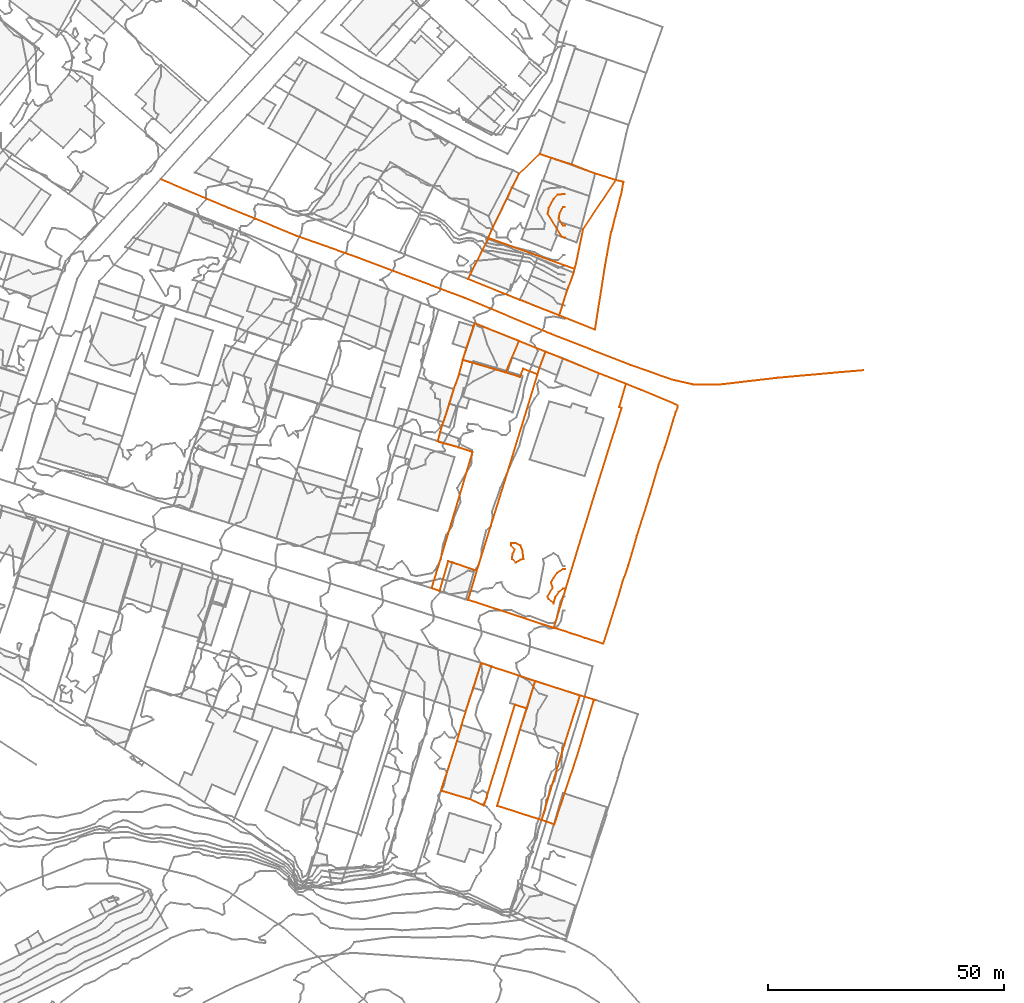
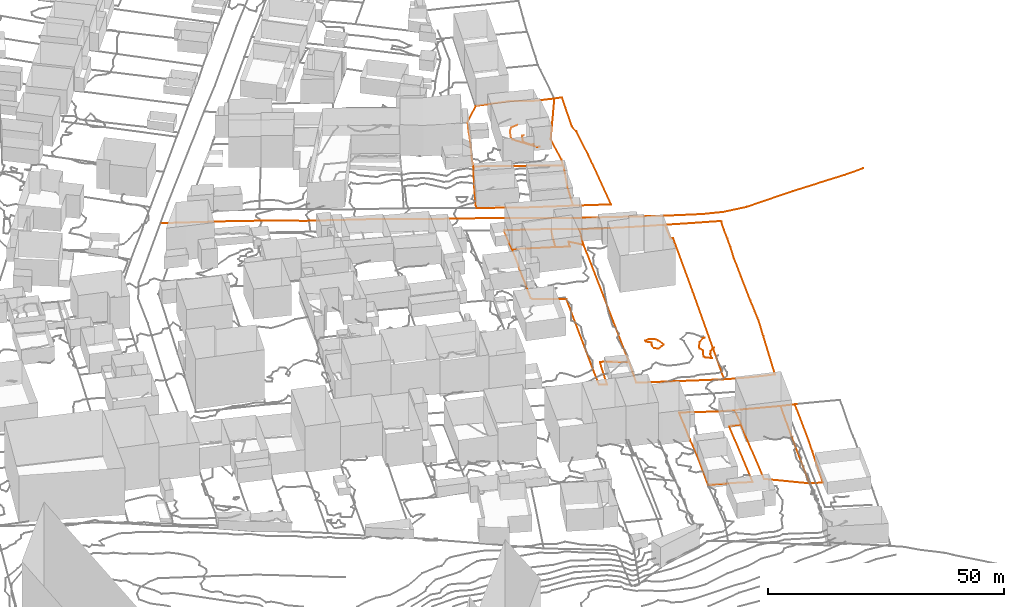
# Not in any storey, part 199 of 419: 16 proxies.
"""IFC2X3 model written with IfcOpenShell, lengths in metres."""

from ifc_helpers import new_model, entity, si_unit, frame, origin_with_axes, place, context, subcontext, project, element, save


model = new_model("IFC2X3")

# Units and contexts
model_context = context("Model", 3, precision=1e-05, world=origin_with_axes())
body_context = subcontext(model_context, "Body", "Model", "MODEL_VIEW")
ifc_project = project(units=[si_unit("AREAUNIT", "SQUARE_METRE"), si_unit("LENGTHUNIT", "METRE")], contexts=[model_context])

# Proxies
proxy_1_placement = place(None, frame((890.9920204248, 221.1976909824, 79.6), z_axis=(0.0, 0.0, 1.0), x_axis=(1.0, 0.0, 0.0)))
element("IfcBuildingElementProxy", 1, at=proxy_1_placement, Name="Route 121", ObjectType="NOTDEFINED", context=body_context, shape_type="GeometricCurveSet", body=[
    entity("IfcGeometricCurveSet", [entity("IfcPolyline", [entity("IfcCartesianPoint", [0.0, 0.0, 0.0]), entity("IfcCartesianPoint", [14.4, -6.0999999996, -0.8]), entity("IfcCartesianPoint", [20.1, -8.3999999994, -1.3]), entity("IfcCartesianPoint", [28.7999999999, -12.0, -2.2]), entity("IfcCartesianPoint", [41.5, -16.5, -3.5]), entity("IfcCartesianPoint", [53.4, -21.0, -4.9]), entity("IfcCartesianPoint", [64.2999999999, -25.0999999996, -6.0]), entity("IfcCartesianPoint", [82.5, -32.7000000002, -7.7]), entity("IfcCartesianPoint", [99.4, -39.2999999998, -9.1]), entity("IfcCartesianPoint", [108.2, -42.3999999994, -9.8]), entity("IfcCartesianPoint", [112.6, -43.3999999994, -10.2]), entity("IfcCartesianPoint", [118.4, -43.3999999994, -10.9]), entity("IfcCartesianPoint", [130.5, -42.0, -11.9]), entity("IfcCartesianPoint", [143.7999999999, -40.7999999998, -13.1]), entity("IfcCartesianPoint", [148.6, -40.3999999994, -13.3])])]),
])
proxy_2_placement = place(None, frame((954.9220204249, 182.9676909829, 73.6734759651), z_axis=(0.0, 0.0, 1.0), x_axis=(1.0, 0.0, 0.0)))
element("IfcBuildingElementProxy", 2, at=proxy_2_placement, Name="Cadastre 171", ObjectType="NOTDEFINED", context=body_context, shape_type="GeometricCurveSet", body=[
    entity("IfcGeometricCurveSet", [entity("IfcPolyline", [entity("IfcCartesianPoint", [11.85, 4.0099999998, -1.3716521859]), entity("IfcCartesianPoint", [10.0599999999, -0.2700000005, -1.0871059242]), entity("IfcCartesianPoint", [9.0599999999, -2.6500000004, -1.0155648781]), entity("IfcCartesianPoint", [0.0, 0.0, 0.0]), entity("IfcCartesianPoint", [0.74, 2.4699999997, -0.1234781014]), entity("IfcCartesianPoint", [2.23, 7.0999999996, -0.5797881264]), entity("IfcCartesianPoint", [2.5299999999, 7.7299999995, -0.6620951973]), entity("IfcCartesianPoint", [11.85, 4.0099999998, -1.3716521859])])]),
])
proxy_3_placement = place(None, frame((948.3420204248, 134.6976909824, 70.182251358), z_axis=(0.0, 0.0, 1.0), x_axis=(1.0, 0.0, 0.0)))
element("IfcBuildingElementProxy", 3, at=proxy_3_placement, Name="Cadastre 172", ObjectType="NOTDEFINED", context=body_context, shape_type="GeometricCurveSet", body=[
    entity("IfcGeometricCurveSet", [entity("IfcPolyline", [entity("IfcCartesianPoint", [22.36, 45.21, 0.9437617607]), entity("IfcCartesianPoint", [16.37, 25.5899999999, 0.4045876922]), entity("IfcCartesianPoint", [9.55, 3.7600000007, 0.1944496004]), entity("IfcCartesianPoint", [9.0700000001, 3.8399999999, 0.391870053]), entity("IfcCartesianPoint", [4.3100000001, 5.4500000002, 1.198497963]), entity("IfcCartesianPoint", [3.51, 5.71, 1.1680731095]), entity("IfcCartesianPoint", [1.67, -0.5699999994, -0.2140882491]), entity("IfcCartesianPoint", [0.0, 0.0, 0.0]), entity("IfcCartesianPoint", [8.65, 28.79, 1.6959260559]), entity("IfcCartesianPoint", [5.64, 29.8000000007, 2.0864874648]), entity("IfcCartesianPoint", [1.6, 30.9100000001, 2.9301432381]), entity("IfcCartesianPoint", [1.27, 31.1100000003, 3.0962023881]), entity("IfcCartesianPoint", [1.5800000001, 32.1299999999, 3.1774495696]), entity("IfcCartesianPoint", [1.8, 32.9800000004, 3.2614468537]), entity("IfcCartesianPoint", [2.21, 34.4900000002, 3.4871472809]), entity("IfcCartesianPoint", [2.46, 35.0800000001, 3.4169209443]), entity("IfcCartesianPoint", [3.73, 38.9700000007, 3.1985443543]), entity("IfcCartesianPoint", [4.6800000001, 42.0700000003, 3.293389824]), entity("IfcCartesianPoint", [5.8100000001, 45.3200000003, 3.247861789]), entity("IfcCartesianPoint", [6.5800000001, 48.2700000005, 3.4912246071]), entity("IfcCartesianPoint", [15.64, 45.6200000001, 2.475659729]), entity("IfcCartesianPoint", [18.66, 44.6800000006, 2.11110365]), entity("IfcCartesianPoint", [19.3300000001, 46.4000000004, 2.0978298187]), entity("IfcCartesianPoint", [22.36, 45.21, 0.9437617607])])]),
])
proxy_4_placement = place(None, frame((956.0420204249, 132.2476909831, 69.4983255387), z_axis=(0.0, 0.0, 1.0), x_axis=(1.0, 0.0, 0.0)))
element("IfcBuildingElementProxy", 4, at=proxy_4_placement, Name="Cadastre 174", ObjectType="NOTDEFINED", context=body_context, shape_type="GeometricCurveSet", body=[
    entity("IfcGeometricCurveSet", [entity("IfcPolyline", [entity("IfcCartesianPoint", [16.37, 52.4499999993, 2.2203743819]), entity("IfcCartesianPoint", [20.0199999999, 51.0199999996, 1.9173746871]), entity("IfcCartesianPoint", [27.6699999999, 47.8799999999, 1.6327760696]), entity("IfcCartesianPoint", [33.37, 45.6699999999, 1.4880712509]), entity("IfcCartesianPoint", [31.96, 40.7799999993, 1.4171756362]), entity("IfcCartesianPoint", [32.4399999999, 40.5699999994, 1.4486759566]), entity("IfcCartesianPoint", [26.75, 22.3899999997, 0.6492754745]), entity("IfcCartesianPoint", [18.1, -5.9300000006, -1.8483448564]), entity("IfcCartesianPoint", [0.0, 0.0, 0.0]), entity("IfcCartesianPoint", [1.85, 6.21, 0.8783754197]), entity("IfcCartesianPoint", [8.6699999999, 28.0399999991, 1.0885135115]), entity("IfcCartesianPoint", [14.6599999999, 47.6599999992, 1.62768758]), entity("IfcCartesianPoint", [15.08, 49.0499999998, 1.8042843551]), entity("IfcCartesianPoint", [16.37, 52.4499999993, 2.2203743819])])]),
])
proxy_5_placement = place(None, frame((956.0520204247, 200.0676909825, 73.5460809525), z_axis=(0.0, 0.0, 1.0), x_axis=(1.0, 0.0, 0.0)))
element("IfcBuildingElementProxy", 5, at=proxy_5_placement, Name="Cadastre 175", ObjectType="NOTDEFINED", context=body_context, shape_type="GeometricCurveSet", body=[
    entity("IfcGeometricCurveSet", [entity("IfcPolyline", [entity("IfcCartesianPoint", [19.26, -7.6699999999, -1.4740820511]), entity("IfcCartesianPoint", [10.9400000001, -4.4199999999, -0.9440820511]), entity("IfcCartesianPoint", [8.4400000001, -3.4299999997, -0.7292825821]), entity("IfcCartesianPoint", [0.0, 0.0, 0.0]), entity("IfcCartesianPoint", [0.42, 0.9199999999, 0.0819259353]), entity("IfcCartesianPoint", [2.9600000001, 6.0600000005, 1.1970188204]), entity("IfcCartesianPoint", [4.1900000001, 8.4199999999, 3.9926731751]), entity("IfcCartesianPoint", [4.2400000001, 8.6900000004, 4.0210779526]), entity("IfcCartesianPoint", [22.5, 2.1299999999, 1.8639211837]), entity("IfcCartesianPoint", [22.3, 1.3200000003, 1.4577211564]), entity("IfcCartesianPoint", [21.9600000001, 0.3500000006, 0.8563184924]), entity("IfcCartesianPoint", [20.92, -2.3599999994, -0.2312794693]), entity("IfcCartesianPoint", [19.26, -7.6699999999, -1.4740820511])])]),
])
proxy_6_placement = place(None, frame((963.9820204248, 180.3176909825, 72.657911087), z_axis=(0.0, 0.0, 1.0), x_axis=(1.0, 0.0, 0.0)))
element("IfcBuildingElementProxy", 6, at=proxy_6_placement, Name="Cadastre 176", ObjectType="NOTDEFINED", context=body_context, shape_type="GeometricCurveSet", body=[
    entity("IfcGeometricCurveSet", [entity("IfcPolyline", [entity("IfcCartesianPoint", [8.4300000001, 4.3799999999, -0.9392111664]), entity("IfcCartesianPoint", [7.14, 0.9800000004, -1.3553011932]), entity("IfcCartesianPoint", [6.72, -0.4100000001, -1.5318979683]), entity("IfcCartesianPoint", [3.6900000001, 0.7800000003, -0.3778299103]), entity("IfcCartesianPoint", [3.02, -0.9399999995, -0.3645560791]), entity("IfcCartesianPoint", [0.0, 0.0, 0.0]), entity("IfcCartesianPoint", [1.0, 2.3799999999, -0.0715410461]), entity("IfcCartesianPoint", [2.79, 6.6600000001, -0.3560873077]), entity("IfcCartesianPoint", [8.4300000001, 4.3799999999, -0.9392111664])])]),
])
proxy_7_placement = place(None, frame((960.2920204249, 208.7576909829, 77.5671589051), z_axis=(0.0, 0.0, 1.0), x_axis=(1.0, 0.0, 0.0)))
element("IfcBuildingElementProxy", 7, at=proxy_7_placement, Name="Cadastre 181", ObjectType="NOTDEFINED", context=body_context, shape_type="GeometricCurveSet", body=[
    entity("IfcGeometricCurveSet", [entity("IfcPolyline", [entity("IfcCartesianPoint", [26.96, 12.2599999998, 0.690040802]), entity("IfcCartesianPoint", [20.0699999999, 1.8799999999, -1.1111576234]), entity("IfcCartesianPoint", [18.59, -5.29, -1.5626556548]), entity("IfcCartesianPoint", [18.2599999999, -6.5600000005, -2.1571567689]), entity("IfcCartesianPoint", [0.0, 0.0, 0.0]), entity("IfcCartesianPoint", [1.0199999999, 2.3399999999, 0.479599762]), entity("IfcCartesianPoint", [3.98, 8.2799999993, 0.9700578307]), entity("IfcCartesianPoint", [5.0099999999, 10.6499999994, 1.0443129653]), entity("IfcCartesianPoint", [6.5299999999, 13.6099999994, 1.0226627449]), entity("IfcCartesianPoint", [10.88, 17.7699999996, 1.0646869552]), entity("IfcCartesianPoint", [13.2599999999, 16.9100000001, 1.1456235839]), entity("IfcCartesianPoint", [17.63, 15.5599999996, 1.223243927]), entity("IfcCartesianPoint", [20.5599999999, 14.3899999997, 1.0203407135]), entity("IfcCartesianPoint", [22.59, 13.6299999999, 0.7425386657]), entity("IfcCartesianPoint", [26.96, 12.2599999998, 0.690040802])])]),
])
proxy_8_placement = place(None, frame((975.3120204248, 192.3976909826, 72.0719989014), z_axis=(0.0, 0.0, 1.0), x_axis=(1.0, 0.0, 0.0)))
element("IfcBuildingElementProxy", 8, at=proxy_8_placement, Name="Cadastre 183", ObjectType="NOTDEFINED", context=body_context, shape_type="GeometricCurveSet", body=[
    entity("IfcGeometricCurveSet", [entity("IfcPolyline", [entity("IfcCartesianPoint", [11.9400000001, 28.6200000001, 6.1852008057]), entity("IfcCartesianPoint", [13.5600000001, 28.2199999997, 6.1612017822]), entity("IfcCartesianPoint", [13.1900000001, 26.0600000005, 4.8582003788]), entity("IfcCartesianPoint", [11.88, 21.04, 3.5432015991]), entity("IfcCartesianPoint", [11.1800000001, 18.1699999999, 4.4085022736]), entity("IfcCartesianPoint", [10.9600000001, 17.5600000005, 4.6440026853]), entity("IfcCartesianPoint", [9.65, 10.3500000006, 3.6025036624]), entity("IfcCartesianPoint", [7.5600000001, -3.04, -0.4712002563]), entity("IfcCartesianPoint", [0.0, 0.0, 0.0]), entity("IfcCartesianPoint", [1.66, 5.3100000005, 1.2428025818]), entity("IfcCartesianPoint", [2.7000000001, 8.0200000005, 2.3304005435]), entity("IfcCartesianPoint", [3.04, 8.9900000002, 2.9318032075]), entity("IfcCartesianPoint", [3.24, 9.7999999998, 3.3380032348]), entity("IfcCartesianPoint", [3.5700000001, 11.0700000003, 3.9325043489]), entity("IfcCartesianPoint", [5.05, 18.2400000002, 4.3840023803]), entity("IfcCartesianPoint", [11.9400000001, 28.6200000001, 6.1852008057])])]),
])
proxy_9_placement = place(None, frame((974.1420204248, 126.3176909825, 67.6499806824), z_axis=(0.0, 0.0, 1.0), x_axis=(1.0, 0.0, 0.0)))
element("IfcBuildingElementProxy", 9, at=proxy_9_placement, Name="Cadastre 188", ObjectType="NOTDEFINED", context=body_context, shape_type="GeometricCurveSet", body=[
    entity("IfcGeometricCurveSet", [entity("IfcPolyline", [entity("IfcCartesianPoint", [0.0, 0.0, 0.0]), entity("IfcCartesianPoint", [8.65, 28.3200000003, 2.4976203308]), entity("IfcCartesianPoint", [14.34, 46.5, 3.297020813]), entity("IfcCartesianPoint", [13.86, 46.71, 3.2655204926]), entity("IfcCartesianPoint", [15.27, 51.6000000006, 3.3364161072]), entity("IfcCartesianPoint", [18.5699999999, 50.2800000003, 3.24401651]), entity("IfcCartesianPoint", [26.24, 47.0600000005, 3.2130199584]), entity("IfcCartesianPoint", [26.23, 46.6600000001, 3.2730205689]), entity("IfcCartesianPoint", [25.8099999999, 45.6400000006, 3.3380201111]), entity("IfcCartesianPoint", [25.1899999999, 43.7300000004, 3.2785196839]), entity("IfcCartesianPoint", [24.39, 40.9500000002, 3.0309217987]), entity("IfcCartesianPoint", [23.47, 38.0099999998, 2.9500177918]), entity("IfcCartesianPoint", [22.1799999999, 34.4100000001, 2.9032205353]), entity("IfcCartesianPoint", [20.37, 28.3200000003, 2.4976203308]), entity("IfcCartesianPoint", [17.5699999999, 19.3900000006, 2.4824223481]), entity("IfcCartesianPoint", [16.48, 15.6200000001, 2.4054194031]), entity("IfcCartesianPoint", [15.76, 13.2000000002, 2.3424176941]), entity("IfcCartesianPoint", [15.4199999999, 12.1299999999, 2.4445177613]), entity("IfcCartesianPoint", [14.5499999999, 9.7800000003, 2.4730204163]), entity("IfcCartesianPoint", [13.9399999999, 7.5899999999, 1.6413191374]), entity("IfcCartesianPoint", [10.48, -3.3599999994, -0.3611800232]), entity("IfcCartesianPoint", [6.6699999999, -2.1299999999, -0.3462828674]), entity("IfcCartesianPoint", [3.8099999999, -1.1899999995, -0.2596826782]), entity("IfcCartesianPoint", [0.72, -0.1699999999, -0.0911061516]), entity("IfcCartesianPoint", [0.0, 0.0, 0.0])])]),
])
proxy_10_placement = place(None, frame((950.3220204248, 91.8876909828, 69.5774701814), z_axis=(0.0, 0.0, 1.0), x_axis=(1.0, 0.0, 0.0)))
element("IfcBuildingElementProxy", 10, at=proxy_10_placement, Name="Cadastre 212", ObjectType="NOTDEFINED", context=body_context, shape_type="GeometricCurveSet", body=[
    entity("IfcGeometricCurveSet", [entity("IfcPolyline", [entity("IfcCartesianPoint", [0.0, 0.0, 0.0]), entity("IfcCartesianPoint", [3.37, 10.5199999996, 0.1297410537]), entity("IfcCartesianPoint", [4.3200000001, 13.8899999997, 0.046028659]), entity("IfcCartesianPoint", [5.2100000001, 16.75, -0.2243259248]), entity("IfcCartesianPoint", [6.8300000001, 21.75, -0.3574703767]), entity("IfcCartesianPoint", [8.4500000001, 27.0, -0.637062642]), entity("IfcCartesianPoint", [10.62, 26.2599999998, -0.8613466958]), entity("IfcCartesianPoint", [16.4700000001, 24.3300000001, -1.5596324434]), entity("IfcCartesianPoint", [19.91, 23.1699999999, -1.678270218]), entity("IfcCartesianPoint", [18.12, 17.3700000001, -1.313891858]), entity("IfcCartesianPoint", [15.61, 18.2000000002, -1.2643227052]), entity("IfcCartesianPoint", [9.0900000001, -3.1500000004, -0.5428013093]), entity("IfcCartesianPoint", [6.15, -1.7999999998, -0.5198270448]), entity("IfcCartesianPoint", [0.0, 0.0, 0.0])])]),
])
proxy_11_placement = place(None, frame((962.1720204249, 88.6876909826, 68.8848294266), z_axis=(0.0, 0.0, 1.0), x_axis=(1.0, 0.0, 0.0)))
element("IfcBuildingElementProxy", 11, at=proxy_11_placement, Name="Cadastre 213", ObjectType="NOTDEFINED", context=body_context, shape_type="GeometricCurveSet", body=[
    entity("IfcGeometricCurveSet", [entity("IfcPolyline", [entity("IfcCartesianPoint", [9.3999999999, -2.9799999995, -2.6212571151]), entity("IfcCartesianPoint", [0.0, 0.0, 0.0]), entity("IfcCartesianPoint", [4.83, 16.1200000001, -0.4749168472]), entity("IfcCartesianPoint", [6.2699999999, 20.5700000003, -0.6212511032]), entity("IfcCartesianPoint", [8.0599999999, 26.3700000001, -0.9856294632]), entity("IfcCartesianPoint", [17.5099999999, 23.3499999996, -1.4156283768]), entity("IfcCartesianPoint", [14.23, 12.9900000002, -1.9168274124]), entity("IfcCartesianPoint", [9.3999999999, -2.9799999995, -2.6212571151])])]),
])
proxy_12_placement = place(None, frame((971.5720204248, 85.7076909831, 66.2635723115), z_axis=(0.0, 0.0, 1.0), x_axis=(1.0, 0.0, 0.0)))
element("IfcBuildingElementProxy", 12, at=proxy_12_placement, Name="Cadastre 214", ObjectType="NOTDEFINED", context=body_context, shape_type="GeometricCurveSet", body=[
    entity("IfcGeometricCurveSet", [entity("IfcPolyline", [entity("IfcCartesianPoint", [11.41, 25.3599999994, 1.1633247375]), entity("IfcCartesianPoint", [11.01, 25.2199999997, 1.1535247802]), entity("IfcCartesianPoint", [7.38, 13.1499999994, 0.5332271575]), entity("IfcCartesianPoint", [6.14, 9.4499999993, 0.3044287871]), entity("IfcCartesianPoint", [4.87, 5.6799999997, 0.2069288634]), entity("IfcCartesianPoint", [4.54, 4.6599999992, 0.2540245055]), entity("IfcCartesianPoint", [2.6900000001, -0.9500000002, -0.1279514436]), entity("IfcCartesianPoint", [0.0, 0.0, 0.0]), entity("IfcCartesianPoint", [4.8300000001, 15.9699999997, 0.7044297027]), entity("IfcCartesianPoint", [8.11, 26.3299999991, 1.2056287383]), entity("IfcCartesianPoint", [11.41, 25.3599999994, 1.1633247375])])]),
])
proxy_13_placement = place(None, frame((975.225349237, 212.8976909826, 76.0), z_axis=(0.0, 0.0, 1.0), x_axis=(1.0, 0.0, 0.0)))
element("IfcBuildingElementProxy", 13, at=proxy_13_placement, Name="Contour 76.0 m", ObjectType="NOTDEFINED", context=body_context, shape_type="GeometricCurveSet", body=[
    entity("IfcGeometricCurveSet", [entity("IfcPolyline", [entity("IfcCartesianPoint", [1.3666711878, 2.4444538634, 0.0]), entity("IfcCartesianPoint", [0.8666711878, 2.4444538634, 0.0]), entity("IfcCartesianPoint", [0.1444442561, 1.0, 0.0]), entity("IfcCartesianPoint", [0.0, 0.0, 0.0]), entity("IfcCartesianPoint", [0.8666711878, -1.4722163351, 0.0]), entity("IfcCartesianPoint", [1.3666711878, -1.4722163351, 0.0])])]),
])
proxy_14_placement = place(None, frame((972.8738348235, 213.8976909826, 77.0), z_axis=(0.0, 0.0, 1.0), x_axis=(1.0, 0.0, 0.0)))
element("IfcBuildingElementProxy", 14, at=proxy_14_placement, Name="Contour 77.0 m", ObjectType="NOTDEFINED", context=body_context, shape_type="GeometricCurveSet", body=[
    entity("IfcGeometricCurveSet", [entity("IfcPolyline", [entity("IfcCartesianPoint", [3.7181856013, 4.1641804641, 0.0]), entity("IfcCartesianPoint", [2.0442711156, 4.0, 0.0]), entity("IfcCartesianPoint", [1.2181856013, 3.1363573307, 0.0]), entity("IfcCartesianPoint", [0.2181856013, 1.142833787, 0.0]), entity("IfcCartesianPoint", [0.0, 0.0, 0.0]), entity("IfcCartesianPoint", [3.1049823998, -5.0, 0.0]), entity("IfcCartesianPoint", [3.7181856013, -5.0882316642, 0.0])])]),
])
proxy_15_placement = place(None, frame((965.0920204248, 143.6976604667, 70.0), z_axis=(0.0, 0.0, 1.0), x_axis=(1.0, 0.0, 0.0)))
element("IfcBuildingElementProxy", 15, at=proxy_15_placement, Name="Contour 70.0 m", ObjectType="NOTDEFINED", context=body_context, shape_type="GeometricCurveSet", body=[
    entity("IfcGeometricCurveSet", [entity("IfcPolyline", [entity("IfcCartesianPoint", [2.0, -2.9817687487, 0.0]), entity("IfcCartesianPoint", [2.6665818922, -2.7999694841, 0.0]), entity("IfcCartesianPoint", [2.4166825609, -0.7999694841, 0.0]), entity("IfcCartesianPoint", [2.0, 0.0333426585, 0.0]), entity("IfcCartesianPoint", [1.0, 0.5333638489, 0.0]), entity("IfcCartesianPoint", [0.0, 0.5334486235, 0.0]), entity("IfcCartesianPoint", [0.0, 0.0, 0.0]), entity("IfcCartesianPoint", [0.7999694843, -0.7999694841, 0.0]), entity("IfcCartesianPoint", [0.3334181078, -1.7999694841, 0.0]), entity("IfcCartesianPoint", [0.2500476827, -2.7999694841, 0.0]), entity("IfcCartesianPoint", [1.0, -3.5499218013, 0.0]), entity("IfcCartesianPoint", [2.0, -2.9817687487, 0.0])])]),
])
proxy_16_placement = place(None, frame((972.8253503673, 132.8976909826, 70.0), z_axis=(0.0, 0.0, 1.0), x_axis=(1.0, 0.0, 0.0)))
element("IfcBuildingElementProxy", 16, at=proxy_16_placement, Name="Contour 70.0 m", ObjectType="NOTDEFINED", context=body_context, shape_type="GeometricCurveSet", body=[
    entity("IfcGeometricCurveSet", [entity("IfcPolyline", [entity("IfcCartesianPoint", [3.7666700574, 1.7547215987, 0.0]), entity("IfcCartesianPoint", [3.2666700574, 1.7547215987, 0.0]), entity("IfcCartesianPoint", [2.3970997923, 1.0, 0.0]), entity("IfcCartesianPoint", [1.6897458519, 0.0, 0.0]), entity("IfcCartesianPoint", [1.2666700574, -1.4000152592, 0.0]), entity("IfcCartesianPoint", [0.2666700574, -0.5000124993, 0.0]), entity("IfcCartesianPoint", [0.0, 0.0, 0.0]), entity("IfcCartesianPoint", [1.1237817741, 2.0, 0.0]), entity("IfcCartesianPoint", [0.7666600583, 3.0, 0.0]), entity("IfcCartesianPoint", [1.2666589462, 4.0, 0.0]), entity("IfcCartesianPoint", [1.9810024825, 5.0, 0.0]), entity("IfcCartesianPoint", [3.2666700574, 5.9090719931, 0.0]), entity("IfcCartesianPoint", [3.7666700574, 5.9090719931, 0.0])])]),
])

save(model, "model.ifc")
